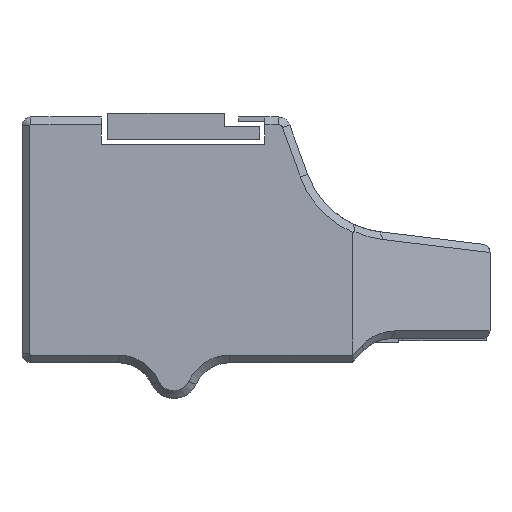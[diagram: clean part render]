
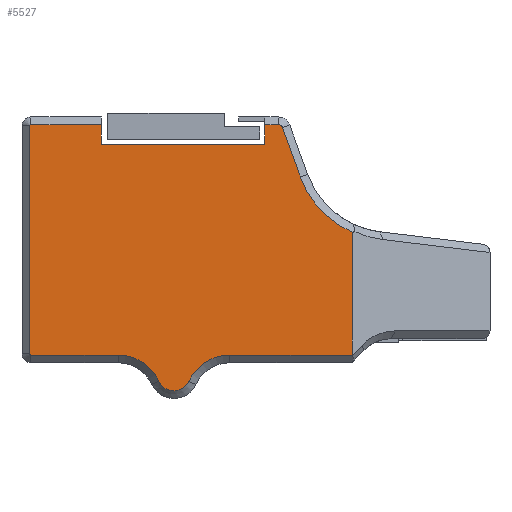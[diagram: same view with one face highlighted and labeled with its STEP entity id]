
A CAD part, left-side view. The second image highlights one B-rep face of the part: STEP entity #5527.
In plain terms, the highlighted planar face has unit normal (-1, 0, 0).
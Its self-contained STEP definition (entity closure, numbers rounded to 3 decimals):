
#4985=CIRCLE('',#18166,0.25);
#4986=CIRCLE('',#18169,0.25);
#4987=CIRCLE('',#18172,10.15);
#4988=CIRCLE('',#18174,3.75);
#4989=CIRCLE('',#18176,10.15);
#4990=CIRCLE('',#18179,21.75);
#4994=CIRCLE('',#18255,1.);
#5527=ADVANCED_FACE('',(#6551),#6030,.T.);
#6030=PLANE('',#18263);
#6551=FACE_OUTER_BOUND('',#7174,.T.);
#7174=EDGE_LOOP('',(#10030,#10031,#10032,#10033,#10034,#10035,#10036,#10037,
#10038,#10039,#10040,#10041,#10042,#10043,#10044,#10045,#10046));
#10030=ORIENTED_EDGE('',*,*,#14353,.F.);
#10031=ORIENTED_EDGE('',*,*,#14351,.F.);
#10032=ORIENTED_EDGE('',*,*,#14145,.F.);
#10033=ORIENTED_EDGE('',*,*,#14149,.T.);
#10034=ORIENTED_EDGE('',*,*,#14151,.T.);
#10035=ORIENTED_EDGE('',*,*,#14153,.T.);
#10036=ORIENTED_EDGE('',*,*,#14155,.T.);
#10037=ORIENTED_EDGE('',*,*,#14158,.T.);
#10038=ORIENTED_EDGE('',*,*,#14160,.T.);
#10039=ORIENTED_EDGE('',*,*,#14162,.T.);
#10040=ORIENTED_EDGE('',*,*,#14164,.T.);
#10041=ORIENTED_EDGE('',*,*,#14308,.T.);
#10042=ORIENTED_EDGE('',*,*,#14180,.T.);
#10043=ORIENTED_EDGE('',*,*,#14169,.T.);
#10044=ORIENTED_EDGE('',*,*,#14166,.T.);
#10045=ORIENTED_EDGE('',*,*,#14343,.T.);
#10046=ORIENTED_EDGE('',*,*,#14354,.T.);
#12240=VERTEX_POINT('',#24376);
#12241=VERTEX_POINT('',#24378);
#12243=VERTEX_POINT('',#24384);
#12244=VERTEX_POINT('',#24388);
#12245=VERTEX_POINT('',#24392);
#12246=VERTEX_POINT('',#24396);
#12247=VERTEX_POINT('',#24401);
#12248=VERTEX_POINT('',#24405);
#12249=VERTEX_POINT('',#24409);
#12250=VERTEX_POINT('',#24413);
#12252=VERTEX_POINT('',#24418);
#12253=VERTEX_POINT('',#24420);
#12255=VERTEX_POINT('',#24426);
#12263=VERTEX_POINT('',#24477);
#12346=VERTEX_POINT('',#24857);
#12351=VERTEX_POINT('',#24874);
#12352=VERTEX_POINT('',#24878);
#14145=EDGE_CURVE('',#12240,#12241,#15991,.T.);
#14149=EDGE_CURVE('',#12240,#12243,#15995,.T.);
#14151=EDGE_CURVE('',#12243,#12244,#4985,.T.);
#14153=EDGE_CURVE('',#12244,#12245,#15998,.T.);
#14155=EDGE_CURVE('',#12245,#12246,#4986,.T.);
#14158=EDGE_CURVE('',#12246,#12247,#16002,.T.);
#14160=EDGE_CURVE('',#12247,#12248,#4987,.T.);
#14162=EDGE_CURVE('',#12248,#12249,#4988,.T.);
#14164=EDGE_CURVE('',#12249,#12250,#4989,.T.);
#14166=EDGE_CURVE('',#12253,#12252,#16007,.T.);
#14169=EDGE_CURVE('',#12255,#12253,#4990,.T.);
#14180=EDGE_CURVE('',#12263,#12255,#16013,.T.);
#14308=EDGE_CURVE('',#12250,#12263,#16134,.T.);
#14343=EDGE_CURVE('',#12252,#12346,#4994,.T.);
#14351=EDGE_CURVE('',#12241,#12351,#16158,.T.);
#14353=EDGE_CURVE('',#12351,#12352,#16160,.T.);
#14354=EDGE_CURVE('',#12346,#12352,#16161,.T.);
#15991=LINE('',#24377,#17281);
#15995=LINE('',#24385,#17285);
#15998=LINE('',#24393,#17288);
#16002=LINE('',#24402,#17292);
#16007=LINE('',#24419,#17297);
#16013=LINE('',#24476,#17303);
#16134=LINE('',#24742,#17424);
#16158=LINE('',#24873,#17448);
#16160=LINE('',#24877,#17450);
#16161=LINE('',#24879,#17451);
#17281=VECTOR('',#20573,1.);
#17285=VECTOR('',#20579,1.);
#17288=VECTOR('',#20588,1.);
#17292=VECTOR('',#20598,1.);
#17297=VECTOR('',#20617,1.);
#17303=VECTOR('',#20637,1.);
#17424=VECTOR('',#20866,1.);
#17448=VECTOR('',#20936,1.);
#17450=VECTOR('',#20940,1.);
#17451=VECTOR('',#20941,1.);
#18166=AXIS2_PLACEMENT_3D('',#24389,#20583,#20584);
#18169=AXIS2_PLACEMENT_3D('',#24397,#20592,#20593);
#18172=AXIS2_PLACEMENT_3D('',#24406,#20602,#20603);
#18174=AXIS2_PLACEMENT_3D('',#24410,#20607,#20608);
#18176=AXIS2_PLACEMENT_3D('',#24414,#20612,#20613);
#18179=AXIS2_PLACEMENT_3D('',#24425,#20622,#20623);
#18255=AXIS2_PLACEMENT_3D('',#24858,#20918,#20919);
#18263=AXIS2_PLACEMENT_3D('',#24880,#20942,#20943);
#20573=DIRECTION('',(0.,0.,-1.));
#20579=DIRECTION('',(0.,1.,0.));
#20583=DIRECTION('',(-1.,0.,0.));
#20584=DIRECTION('',(0.,1.,0.));
#20588=DIRECTION('',(0.,0.,-1.));
#20592=DIRECTION('',(-1.,0.,0.));
#20593=DIRECTION('',(0.,1.,0.));
#20598=DIRECTION('',(0.,-1.,0.));
#20602=DIRECTION('',(1.,0.,0.));
#20603=DIRECTION('',(0.,1.,0.));
#20607=DIRECTION('',(-1.,0.,0.));
#20608=DIRECTION('',(0.,1.,0.));
#20612=DIRECTION('',(1.,0.,0.));
#20613=DIRECTION('',(0.,1.,0.));
#20617=DIRECTION('',(0.,0.342,0.94));
#20622=DIRECTION('',(1.,0.,0.));
#20623=DIRECTION('',(0.,1.,0.));
#20637=DIRECTION('',(0.,0.,1.));
#20866=DIRECTION('',(0.,-1.,0.));
#20918=DIRECTION('',(-1.,0.,0.));
#20919=DIRECTION('',(0.,1.,0.));
#20936=DIRECTION('',(0.,-1.,0.));
#20940=DIRECTION('',(0.,0.,1.));
#20941=DIRECTION('',(0.,1.,0.));
#20942=DIRECTION('',(-1.,0.,0.));
#20943=DIRECTION('',(0.,0.,1.));
#24376=CARTESIAN_POINT('',(-39.938,74.55,35.63));
#24377=CARTESIAN_POINT('',(-39.938,74.55,38.18));
#24378=CARTESIAN_POINT('',(-39.938,74.55,31.18));
#24384=CARTESIAN_POINT('',(-39.938,90.55,35.63));
#24385=CARTESIAN_POINT('',(-39.938,37.55,35.63));
#24388=CARTESIAN_POINT('',(-39.938,90.8,35.38));
#24389=CARTESIAN_POINT('',(-39.938,90.55,35.38));
#24392=CARTESIAN_POINT('',(-39.938,90.8,-16.32));
#24393=CARTESIAN_POINT('',(-39.938,90.8,38.18));
#24396=CARTESIAN_POINT('',(-39.938,90.55,-16.57));
#24397=CARTESIAN_POINT('',(-39.938,90.55,-16.32));
#24401=CARTESIAN_POINT('',(-39.938,70.782,-16.57));
#24402=CARTESIAN_POINT('',(-39.938,39.55,-16.57));
#24405=CARTESIAN_POINT('',(-39.938,61.558,-22.485));
#24406=CARTESIAN_POINT('',(-39.938,70.782,-26.72));
#24409=CARTESIAN_POINT('',(-39.938,54.742,-22.485));
#24410=CARTESIAN_POINT('',(-39.938,58.15,-20.92));
#24413=CARTESIAN_POINT('',(-39.938,45.518,-16.57));
#24414=CARTESIAN_POINT('',(-39.938,45.518,-26.72));
#24418=CARTESIAN_POINT('',(-39.938,33.567,34.972));
#24419=CARTESIAN_POINT('',(-39.938,35.298,39.728));
#24420=CARTESIAN_POINT('',(-39.938,29.488,23.767));
#24425=CARTESIAN_POINT('',(-39.938,9.05,31.206));
#24426=CARTESIAN_POINT('',(-39.938,17.727,11.262));
#24476=CARTESIAN_POINT('',(-39.938,17.727,38.18));
#24477=CARTESIAN_POINT('',(-39.938,17.727,-16.57));
#24742=CARTESIAN_POINT('',(-39.938,39.55,-16.57));
#24857=CARTESIAN_POINT('',(-39.938,34.506,35.63));
#24858=CARTESIAN_POINT('',(-39.938,34.506,34.63));
#24873=CARTESIAN_POINT('',(-39.938,39.55,31.18));
#24874=CARTESIAN_POINT('',(-39.938,37.55,31.18));
#24877=CARTESIAN_POINT('',(-39.938,37.55,38.18));
#24878=CARTESIAN_POINT('',(-39.938,37.55,35.63));
#24879=CARTESIAN_POINT('',(-39.938,37.55,35.63));
#24880=CARTESIAN_POINT('',(-39.938,39.55,38.18));
